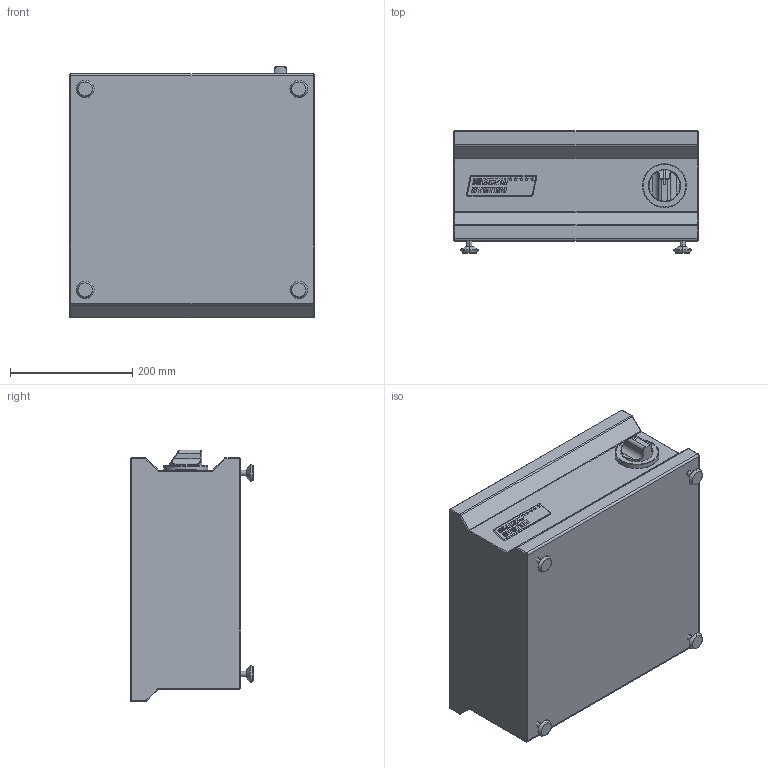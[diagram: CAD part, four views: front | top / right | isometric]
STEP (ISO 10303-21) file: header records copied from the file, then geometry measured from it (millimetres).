
FILE_DESCRIPTION (( 'STEP AP214' ), '1' );
FILE_NAME ('MS-I-10M.STEP', '2015-08-05T07:14:44', ( 'T. Weiss' ), ( 'Menusystem AG' ), 'SwSTEP 2.0', 'SolidWorks 2012', '' );
FILE_SCHEMA (( 'AUTOMOTIVE_DESIGN' ));
Length unit declared in the file: millimetre
Products named in the file (1): MS-I-10M
Bounding box: 400 x 200.22 x 412.43 mm (x, y, z)
Volume: 26707555.3 mm3; surface area: 637335.7 mm2
Topology: 5 solids, 6 shells, 567 faces, 1441 edges, 922 vertices
Faces by surface type: plane 317, cylinder 130, bspline 78, cone 42
Entity records: 21017 total; most frequent: CARTESIAN_POINT 7542, ORIENTED_EDGE 2878, DIRECTION 2583, EDGE_CURVE 1439, VECTOR 975, LINE 975, VERTEX_POINT 922, AXIS2_PLACEMENT_3D 804
